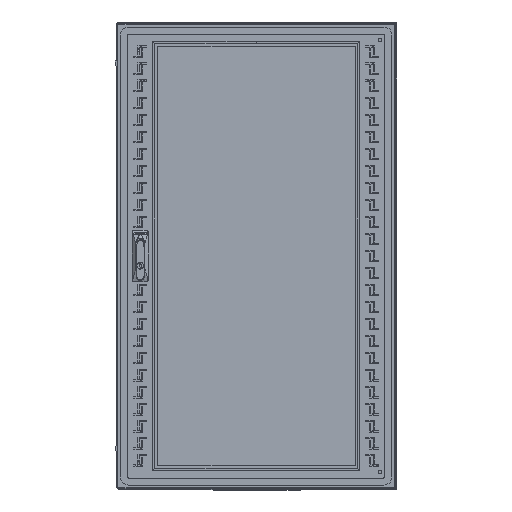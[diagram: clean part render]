
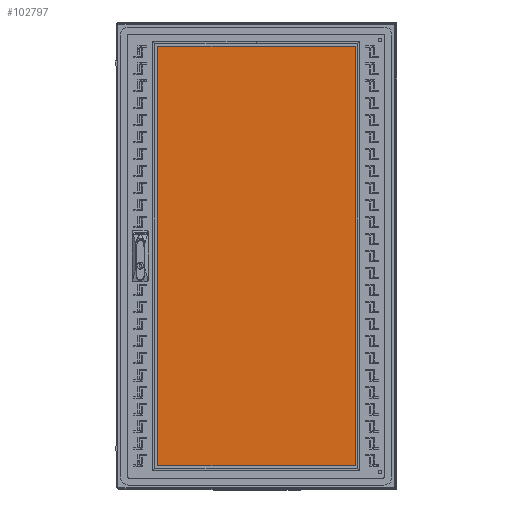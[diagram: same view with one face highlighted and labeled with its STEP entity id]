
A CAD part, top view. The second image highlights one B-rep face of the part: STEP entity #102797.
In plain terms, the highlighted planar face has unit normal (0, 0, 1) as drawn and (0, 0, -1) by its records, which use the part's own axes.
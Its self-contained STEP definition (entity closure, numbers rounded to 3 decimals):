
#8201 = VECTOR ( 'NONE', #189325, 1000. ) ;
#9949 = CARTESIAN_POINT ( 'NONE',  ( -217.5, -455., 0. ) ) ;
#13278 = CARTESIAN_POINT ( 'NONE',  ( 217.5, -455., 0. ) ) ;
#15317 = EDGE_CURVE ( 'NONE', #20365, #166397, #114776, .T. ) ;
#16392 = EDGE_CURVE ( 'NONE', #166397, #29597, #112415, .T. ) ;
#18045 = CARTESIAN_POINT ( 'NONE',  ( 0., 0., 0. ) ) ;
#20365 = VERTEX_POINT ( 'NONE', #27593 ) ;
#27593 = CARTESIAN_POINT ( 'NONE',  ( -217.5, -455., 0. ) ) ;
#29597 = VERTEX_POINT ( 'NONE', #48348 ) ;
#33108 = DIRECTION ( 'NONE',  ( 0., 0., -1. ) ) ;
#33136 = VECTOR ( 'NONE', #162655, 1000. ) ;
#35557 = VECTOR ( 'NONE', #168279, 1000. ) ;
#46471 = ORIENTED_EDGE ( 'NONE', *, *, #88656, .F. ) ;
#48348 = CARTESIAN_POINT ( 'NONE',  ( 217.5, 455., 0. ) ) ;
#57745 = EDGE_LOOP ( 'NONE', ( #179116, #147344, #174812, #46471 ) ) ;
#61736 = AXIS2_PLACEMENT_3D ( 'NONE', #18045, #33108, #137335 ) ;
#63118 = CARTESIAN_POINT ( 'NONE',  ( 217.5, -455., 0. ) ) ;
#87715 = LINE ( 'NONE', #9949, #8201 ) ;
#88656 = EDGE_CURVE ( 'NONE', #29597, #89000, #90899, .T. ) ;
#89000 = VERTEX_POINT ( 'NONE', #122797 ) ;
#90899 = LINE ( 'NONE', #115725, #121106 ) ;
#100751 = DIRECTION ( 'NONE',  ( -1., 0., 0. ) ) ;
#101186 = EDGE_CURVE ( 'NONE', #89000, #20365, #87715, .T. ) ;
#102797 = ADVANCED_FACE ( 'NONE', ( #164415 ), #166773, .T. ) ;
#112415 = LINE ( 'NONE', #13278, #33136 ) ;
#114776 = LINE ( 'NONE', #178713, #35557 ) ;
#115725 = CARTESIAN_POINT ( 'NONE',  ( -217.5, 455., 0. ) ) ;
#121106 = VECTOR ( 'NONE', #100751, 1000. ) ;
#122797 = CARTESIAN_POINT ( 'NONE',  ( -217.5, 455., 0. ) ) ;
#137335 = DIRECTION ( 'NONE',  ( -1., 0., 0. ) ) ;
#147344 = ORIENTED_EDGE ( 'NONE', *, *, #15317, .F. ) ;
#162655 = DIRECTION ( 'NONE',  ( 0., 1., 0. ) ) ;
#164415 = FACE_OUTER_BOUND ( 'NONE', #57745, .T. ) ;
#166397 = VERTEX_POINT ( 'NONE', #63118 ) ;
#166773 = PLANE ( 'NONE',  #61736 ) ;
#168279 = DIRECTION ( 'NONE',  ( 1., 0., 0. ) ) ;
#174812 = ORIENTED_EDGE ( 'NONE', *, *, #101186, .F. ) ;
#178713 = CARTESIAN_POINT ( 'NONE',  ( -217.5, -455., 0. ) ) ;
#179116 = ORIENTED_EDGE ( 'NONE', *, *, #16392, .F. ) ;
#189325 = DIRECTION ( 'NONE',  ( 0., -1., 0. ) ) ;
